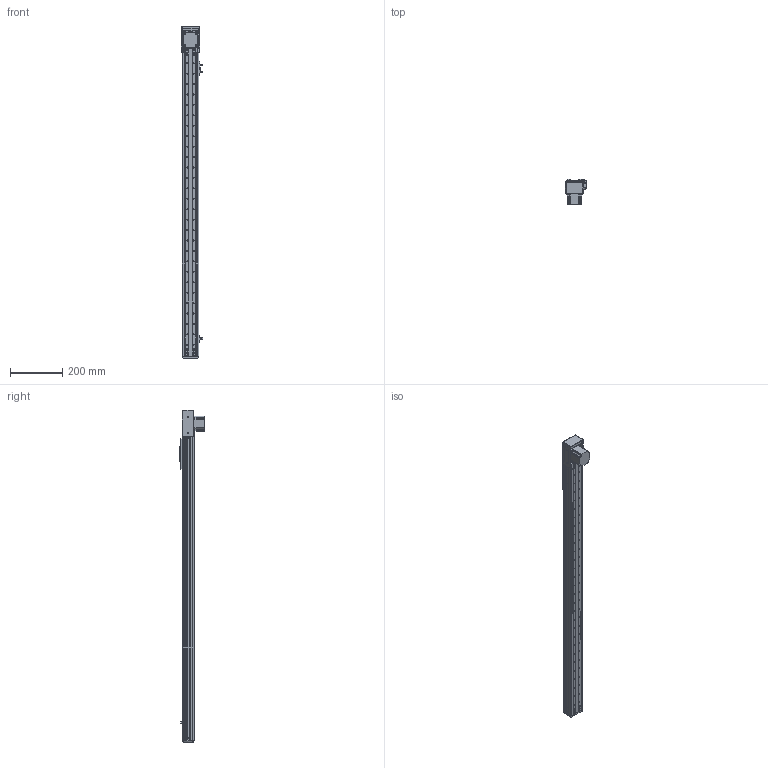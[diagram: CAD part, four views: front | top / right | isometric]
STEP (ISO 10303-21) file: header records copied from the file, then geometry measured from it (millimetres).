
FILE_DESCRIPTION (( 'STEP AP203' ), '1' );
FILE_NAME ('RY60F-T-350-DK.SLDASM_1000.step', '2021-03-02T00:56:13', ( '盈信电脑' ), ( '东莞市道滘镇水果街19号' ), 'SwSTEP 2.0', 'SolidWorks 2012', '' );
FILE_SCHEMA (( 'CONFIG_CONTROL_DESIGN' ));
Length unit declared in the file: millimetre
Products named in the file (19): RY60F-T-狟殏欶; RY60F-T-350-DK.SLDASM_1000; RY60F-肮祭湍揤輸; RY60F-T-下折同步带拉紧板; RY60F-肮祭湍揤輸2; 57祭輛萇儂; RY60F-T-57萇儂奻殏假蚾啣; RY50F-350-MR15W絳寢-DK_1000; 滅袉蝶18-24; RY60F-350-肮祭湍滅鳥詩え-DK_1000; RY60F-350肮祭湍俋褲-DK_1000; RY60F-T-下折57电机端同步轮座; RY60F-祥凄詩滅鳥裔; 覜茼ん672; RY60F-滅鳥詩え盓殤; RY50-60詩湍揤啣; RY60F-嫖萇羲壽結え; RY60F-肮祭湍臏賑輸; RY60F-浮动端同步轮支撑座
Assembly tree (23 placements, depth 2):
  RY60F-T-350-DK.SLDASM_1000
    RY60F-肮祭湍臏賑輸
    RY60F-浮动端同步轮支撑座
    RY60F-滅鳥詩え盓殤
    RY60F-嫖萇羲壽結え
    RY50-60詩湍揤啣  x2
    RY60F-祥凄詩滅鳥裔
    RY60F-T-下折57电机端同步轮座
    RY60F-350肮祭湍俋褲-DK_1000  x2
    覜茼ん672  x3
    RY60F-350-肮祭湍滅鳥詩え-DK_1000
    RY50F-350-MR15W絳寢-DK_1000
    滅袉蝶18-24  x2
    RY60F-T-57萇儂奻殏假蚾啣
    RY60F-T-下折同步带拉紧板
    RY60F-肮祭湍揤輸
    RY60F-肮祭湍揤輸2
    57祭輛萇儂
    RY60F-T-狟殏欶
Bounding box: 80.76 x 96.5 x 1273 mm (x, y, z)
Volume: 1127610.3 mm3; surface area: 773804.9 mm2
Topology: 23 solids, 23 shells, 1218 faces, 3350 edges, 2156 vertices
Faces by surface type: cylinder 591, plane 546, cone 71, bspline 10
Entity records: 37757 total; most frequent: CARTESIAN_POINT 6817, DIRECTION 6140, ORIENTED_EDGE 5876, EDGE_CURVE 2938, AXIS2_PLACEMENT_3D 2187, VERTEX_POINT 1924, LINE 1766, VECTOR 1766
